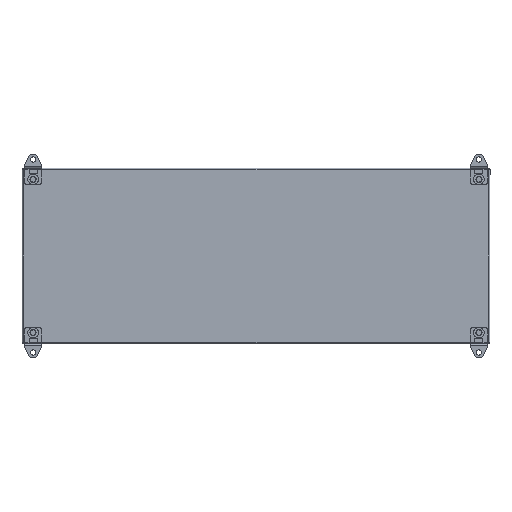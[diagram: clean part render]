
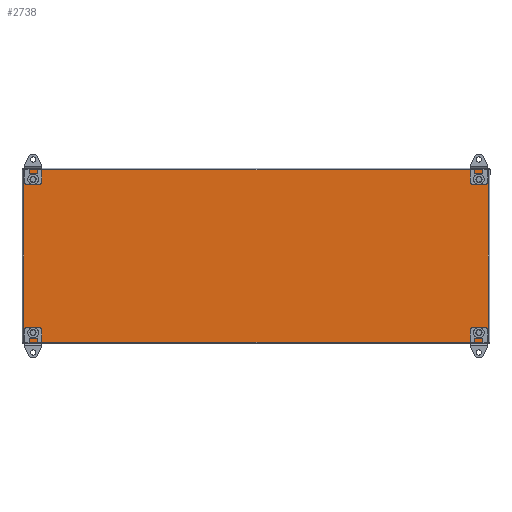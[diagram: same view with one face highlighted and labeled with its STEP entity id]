
A CAD part, left-side view. The second image highlights one B-rep face of the part: STEP entity #2738.
In plain terms, the highlighted planar face has unit normal (-1, 0, 0).
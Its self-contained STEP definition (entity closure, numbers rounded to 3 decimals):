
#2738=ADVANCED_FACE('',(#3874,#3876,#3878,#3880,#3882),#3884,.F.);
#3874=FACE_BOUND('',#3875,.T.);
#3875=EDGE_LOOP('',(#8639,#8640,#8641,#8642));
#3876=FACE_BOUND('',#3877,.T.);
#3877=EDGE_LOOP('',(#8643));
#3878=FACE_BOUND('',#3879,.T.);
#3879=EDGE_LOOP('',(#8644));
#3880=FACE_BOUND('',#3881,.T.);
#3881=EDGE_LOOP('',(#8645));
#3882=FACE_BOUND('',#3883,.T.);
#3883=EDGE_LOOP('',(#8646));
#3884=PLANE('',#3885);
#3885=AXIS2_PLACEMENT_3D('',#3886,#3887,#3888);
#3886=CARTESIAN_POINT('',(0.,0.,0.));
#3887=DIRECTION('',(1.,0.,0.));
#3888=DIRECTION('',(0.,1.,0.));
#8639=ORIENTED_EDGE('',*,*,#10726,.T.);
#8640=ORIENTED_EDGE('',*,*,#10727,.T.);
#8641=ORIENTED_EDGE('',*,*,#10728,.T.);
#8642=ORIENTED_EDGE('',*,*,#10729,.T.);
#8643=ORIENTED_EDGE('',*,*,#10684,.T.);
#8644=ORIENTED_EDGE('',*,*,#10683,.T.);
#8645=ORIENTED_EDGE('',*,*,#10682,.T.);
#8646=ORIENTED_EDGE('',*,*,#10681,.T.);
#10681=EDGE_CURVE('',#11884,#11884,#11885,.F.);
#10682=EDGE_CURVE('',#11886,#11886,#11887,.F.);
#10683=EDGE_CURVE('',#11888,#11888,#11889,.F.);
#10684=EDGE_CURVE('',#11890,#11890,#11891,.F.);
#10726=EDGE_CURVE('',#11962,#11963,#11964,.T.);
#10727=EDGE_CURVE('',#11963,#11965,#11966,.T.);
#10728=EDGE_CURVE('',#11965,#11967,#11968,.T.);
#10729=EDGE_CURVE('',#11967,#11962,#11969,.T.);
#11884=VERTEX_POINT('',#13984);
#11885=CIRCLE('',#13985,3.25);
#11886=VERTEX_POINT('',#13989);
#11887=CIRCLE('',#13990,3.25);
#11888=VERTEX_POINT('',#13994);
#11889=CIRCLE('',#13995,3.25);
#11890=VERTEX_POINT('',#13999);
#11891=CIRCLE('',#14000,3.25);
#11962=VERTEX_POINT('',#14161);
#11963=VERTEX_POINT('',#14162);
#11964=LINE('',#14163,#14164);
#11965=VERTEX_POINT('',#14166);
#11966=LINE('',#14167,#14168);
#11967=VERTEX_POINT('',#14170);
#11968=LINE('',#14171,#14172);
#11969=LINE('',#14174,#14175);
#13984=CARTESIAN_POINT('',(0.,-384.25,131.));
#13985=AXIS2_PLACEMENT_3D('',#13986,#13987,#13988);
#13986=CARTESIAN_POINT('',(0.,-381.,131.));
#13987=DIRECTION('',(-1.,0.,0.));
#13988=DIRECTION('',(0.,-1.,0.));
#13989=CARTESIAN_POINT('',(0.,377.75,-131.));
#13990=AXIS2_PLACEMENT_3D('',#13991,#13992,#13993);
#13991=CARTESIAN_POINT('',(0.,381.,-131.));
#13992=DIRECTION('',(-1.,0.,0.));
#13993=DIRECTION('',(0.,-1.,0.));
#13994=CARTESIAN_POINT('',(0.,-384.25,-131.));
#13995=AXIS2_PLACEMENT_3D('',#13996,#13997,#13998);
#13996=CARTESIAN_POINT('',(0.,-381.,-131.));
#13997=DIRECTION('',(-1.,0.,0.));
#13998=DIRECTION('',(0.,-1.,0.));
#13999=CARTESIAN_POINT('',(0.,377.75,131.));
#14000=AXIS2_PLACEMENT_3D('',#14001,#14002,#14003);
#14001=CARTESIAN_POINT('',(0.,381.,131.));
#14002=DIRECTION('',(-1.,0.,0.));
#14003=DIRECTION('',(0.,-1.,0.));
#14161=CARTESIAN_POINT('',(0.,397.2,147.2));
#14162=CARTESIAN_POINT('',(0.,397.2,-147.2));
#14163=CARTESIAN_POINT('',(0.,397.2,147.2));
#14164=VECTOR('',#14165,1.);
#14165=DIRECTION('',(0.,0.,-1.));
#14166=CARTESIAN_POINT('',(0.,-397.2,-147.2));
#14167=CARTESIAN_POINT('',(0.,397.2,-147.2));
#14168=VECTOR('',#14169,1.);
#14169=DIRECTION('',(0.,-1.,0.));
#14170=CARTESIAN_POINT('',(0.,-397.2,147.2));
#14171=CARTESIAN_POINT('',(0.,-397.2,-147.2));
#14172=VECTOR('',#14173,1.);
#14173=DIRECTION('',(0.,0.,1.));
#14174=CARTESIAN_POINT('',(0.,-397.2,147.2));
#14175=VECTOR('',#14176,1.);
#14176=DIRECTION('',(0.,1.,0.));
